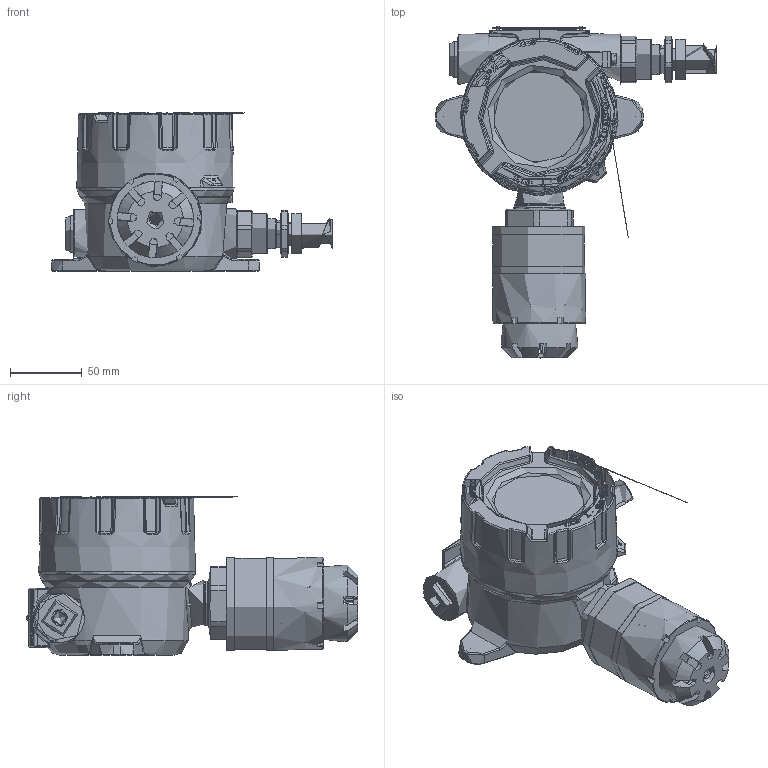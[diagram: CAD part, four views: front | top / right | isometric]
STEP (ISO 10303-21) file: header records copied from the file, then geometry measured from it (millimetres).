
FILE_DESCRIPTION(('STEP AP214'), '1');
FILE_NAME('ÄÃÑ Ýðèñ-210_Êîðïóñ', '', ('UNSPECIFIED'), ('UNSPECIFIED'), 'ASCON STEP Converter 1.3', 'ASCON Math Kernel', '');
FILE_SCHEMA(('AUTOMOTIVE_DESIGN { 1 0 10303 214 3 1 1}'));
Length unit declared in the file: millimetre
Products named in the file (26): korpus XD-I-obrobka - KU12-15; USZCZELKA XD-I ; podklladka PTN-1,5; podkl. M4; wkret PTN-1,5; podkladka. ET4; podkl. M5; wkret ETN-4; L4357- Pokrywa XD-ILwin - obrobka - napis w j.rosyjskim - ku13-16; L1652.1; L2239-piersc W95x3.; wkrêt blok M3; 橾迕.413216.210.06.01-06; jin75D2nz67; 橾迕.413216.210.12
Assembly tree (27 placements, depth 3):
  (unnamed)
    (unnamed)
      korpus XD-I-obrobka - KU12-15
      USZCZELKA XD-I 
      podklladka PTN-1,5
      podkl. M4
      wkret PTN-1,5
      podkladka. ET4
      podkl. M5
      wkret ETN-4
    (unnamed)
      L4357- Pokrywa XD-ILwin - obrobka - napis w j.rosyjskim - ku13-16
      L1652.1
      L2239-piersc W95x3.
      wkrêt blok M3
    橾迕.413216.210.06.01-06
    jin75D2nz67
    橾迕.413216.210.12
    (unnamed)  x2
    (unnamed)
      (unnamed)
      (unnamed)
      (unnamed)
      (unnamed)
    (unnamed)
      (unnamed)
      (unnamed)
Bounding box: 196.16 x 231.9 x 110.4 mm (x, y, z)
Volume: 244504.8 mm3; surface area: 237106.3 mm2
Topology: 21 solids, 23 shells, 4415 faces, 12041 edges, 7711 vertices
Faces by surface type: plane 2056, extrusion 1417, bspline 308, cylinder 301, cone 144, torus 119, sphere 70
Full cylindrical faces by diameter (mm): 0.75 x12, 2 x5, 2.459 x11, 2.5 x2, 2.6 x1, 2.8 x1, 3 x1, 3.242 x1, 3.5 x2, 3.6 x3, 3.9 x1, 4 x1, 4.1 x1, 4.134 x1, 4.5 x1, 4.9 x1, 5 x1, 5.1 x1, 6 x1, 7 x1, 7.28 x1, 7.95 x8, 8.28 x1, 8.4 x1, 10 x1, 10.106 x1, 14 x2, 15.5 x1, 16 x3, 17 x1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
Entity records: 203376 total; most frequent: CARTESIAN_POINT 66668, ORIENTED_EDGE 22612, DIRECTION 15395, EDGE_CURVE 11306, VECTOR 7697, VERTEX_POINT 7526, LINE 6280, B_SPLINE_CURVE_WITH_KNOTS 5300
